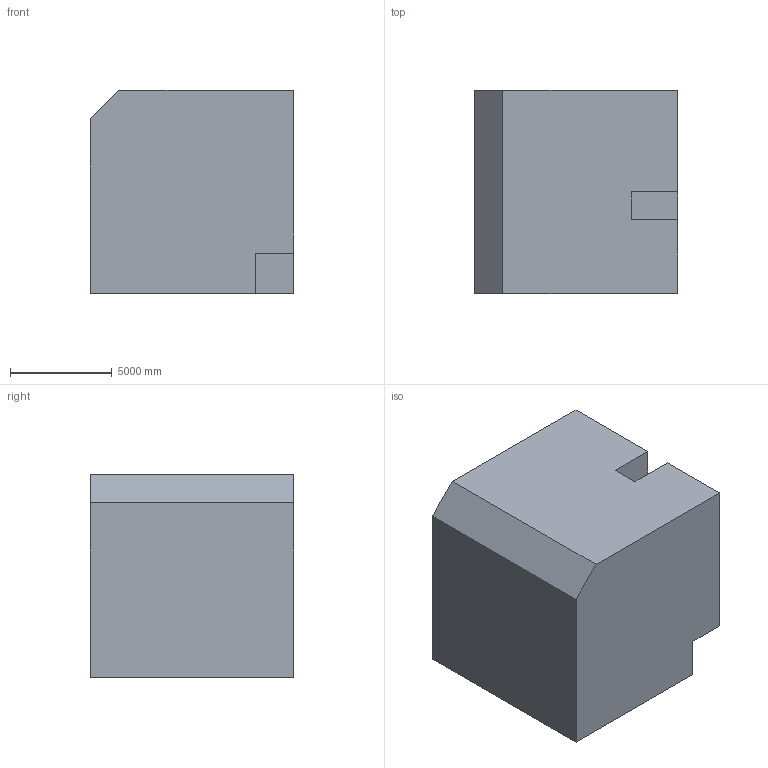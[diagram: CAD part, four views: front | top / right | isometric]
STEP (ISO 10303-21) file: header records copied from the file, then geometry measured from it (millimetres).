
FILE_DESCRIPTION (( 'STEP AP203' ), '1' );
FILE_NAME ('312.STEP', '2022-07-28T14:18:02', ( 'user' ), ( '' ), 'SwSTEP 2.0', 'SolidWorks 2021', '' );
FILE_SCHEMA (( 'CONFIG_CONTROL_DESIGN' ));
Length unit declared in the file: centimetre
Products named in the file (1): 312
Bounding box: 10000 x 10000 x 10000 mm (x, y, z)
Volume: 951588818674 mm3; surface area: 642601268.7 mm2
Topology: 1 solids, 1 shells, 21 faces, 54 edges, 36 vertices
Faces by surface type: plane 21
Entity records: 705 total; most frequent: CARTESIAN_POINT 112, ORIENTED_EDGE 108, DIRECTION 98, VECTOR 54, EDGE_CURVE 54, LINE 54, VERTEX_POINT 36, EDGE_LOOP 22
